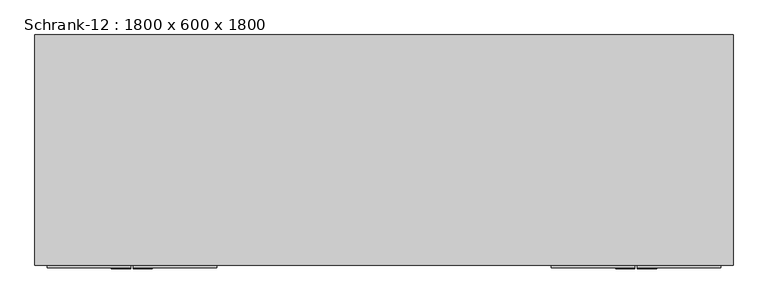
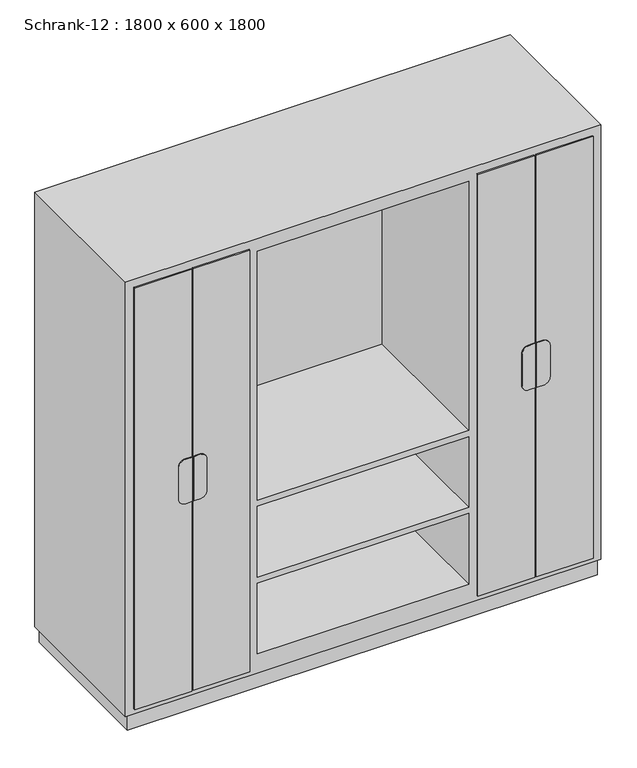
"""IFC4 building model written with IfcOpenShell, lengths in millimetres: furniture geometry, Schrank-12 : 1800 x 600 x 1800."""

from ifc_helpers import new_model, si_unit, point, frame, frame_2d, origin, origin_with_axes, place, context, project, spatial, polyline, circle_curve, trimmed, segment, composite_curve, outline, extrude, faceted_brep, source, transform, mapped, element, save


def schrank_12_1800_x_600_x_1800_5341ef42(model_context):
    return source(origin(), model_context, "Body", "SolidModel", [
        extrude(outline(composite_curve([segment(polyline([(1018.9, -622.5986452), (1018.9, -646.825), (841.1, -646.825), (841.1, -622.5986452)]), True, "CONTINUOUS"), segment(trimmed(circle_curve(frame_2d((866.5, -622.5986452)), 25.4), [point((841.1, -622.5986452))], [point((866.5, -597.1986452))], False, "CARTESIAN"), True, "CONTINUOUS"), segment(polyline([(866.5, -597.1986452), (993.5, -597.1986452)]), True, "CONTINUOUS"), segment(trimmed(circle_curve(frame_2d((993.5, -622.5986452)), 25.4), [point((993.5, -597.1986452))], [point((1018.9, -622.5986452))], False, "CARTESIAN"), True, "CONTINUOUS")], self_intersect=False)), frame((0.0, -709.575, 0.0), z_axis=(0.0, 1.0, 0.0), x_axis=(0.0, 0.0, 1.0)), (0.0, 0.0, 1.0), 3.175),
        extrude(outline(composite_curve([segment(trimmed(circle_curve(frame_2d((993.5, -677.78125)), 25.4), [point((1018.9, -677.78125))], [point((993.5, -703.18125))], False, "CARTESIAN"), True, "CONTINUOUS"), segment(polyline([(993.5, -703.18125), (866.5, -703.18125)]), True, "CONTINUOUS"), segment(trimmed(circle_curve(frame_2d((866.5, -677.78125)), 25.4), [point((866.5, -703.18125))], [point((841.1, -677.78125))], False, "CARTESIAN"), True, "CONTINUOUS"), segment(polyline([(841.1, -677.78125), (841.1, -653.175), (1018.9, -653.175), (1018.9, -677.78125)]), True, "CONTINUOUS")], self_intersect=False)), frame((0.0, -709.575, 0.0), z_axis=(0.0, 1.0, 0.0), x_axis=(0.0, 0.0, 1.0)), (0.0, 0.0, 1.0), 3.175),
        extrude(outline(composite_curve([segment(trimmed(circle_curve(frame_2d((993.5, 622.5986452)), 25.4), [point((1018.9, 622.5986452))], [point((993.5, 597.1986452))], False, "CARTESIAN"), True, "CONTINUOUS"), segment(polyline([(993.5, 597.1986452), (866.5, 597.1986452)]), True, "CONTINUOUS"), segment(trimmed(circle_curve(frame_2d((866.5, 622.5986452)), 25.4), [point((866.5, 597.1986452))], [point((841.1, 622.5986452))], False, "CARTESIAN"), True, "CONTINUOUS"), segment(polyline([(841.1, 622.5986452), (841.1, 646.825), (1018.9, 646.825), (1018.9, 622.5986452)]), True, "CONTINUOUS")], self_intersect=False)), frame((0.0, -709.575, 0.0), z_axis=(0.0, 1.0, 0.0), x_axis=(0.0, 0.0, 1.0)), (0.0, 0.0, 1.0), 3.175),
        extrude(outline(composite_curve([segment(polyline([(1018.9, 677.78125), (1018.9, 653.175), (841.1, 653.175), (841.1, 677.78125)]), True, "CONTINUOUS"), segment(trimmed(circle_curve(frame_2d((866.5, 677.78125)), 25.4), [point((841.1, 677.78125))], [point((866.5, 703.18125))], False, "CARTESIAN"), True, "CONTINUOUS"), segment(polyline([(866.5, 703.18125), (993.5, 703.18125)]), True, "CONTINUOUS"), segment(trimmed(circle_curve(frame_2d((993.5, 677.78125)), 25.4), [point((993.5, 703.18125))], [point((1018.9, 677.78125))], False, "CARTESIAN"), True, "CONTINUOUS")], self_intersect=False)), frame((0.0, -709.575, 0.0), z_axis=(0.0, 1.0, 0.0), x_axis=(0.0, 0.0, 1.0)), (0.0, 0.0, 1.0), 3.175),
        extrude(outline(polyline([(-868.25, -700.05), (-653.175, -700.05), (-653.175, -706.4), (-868.25, -706.4), (-868.25, -700.05)])), frame((0.0, 0.0, 80.0), z_axis=(0.0, 0.0, 1.0), x_axis=(1.0, 0.0, 0.0)), (0.0, 0.0, 1.0), 1688.25),
        extrude(outline(polyline([(-646.825, -700.05), (-431.75, -700.05), (-431.75, -706.4), (-646.825, -706.4), (-646.825, -700.05)])), frame((0.0, 0.0, 80.0), z_axis=(0.0, 0.0, 1.0), x_axis=(1.0, 0.0, 0.0)), (0.0, 0.0, 1.0), 1688.25),
        extrude(outline(polyline([(653.175, -700.05), (868.25, -700.05), (868.25, -706.4), (653.175, -706.4), (653.175, -700.05)])), frame((0.0, 0.0, 80.0), z_axis=(0.0, 0.0, 1.0), x_axis=(1.0, 0.0, 0.0)), (0.0, 0.0, 1.0), 1688.25),
        extrude(outline(polyline([(431.75, -700.05), (646.825, -700.05), (646.825, -706.4), (431.75, -706.4), (431.75, -700.05)])), frame((0.0, 0.0, 80.0), z_axis=(0.0, 0.0, 1.0), x_axis=(1.0, 0.0, 0.0)), (0.0, 0.0, 1.0), 1688.25),
        faceted_brep([(900.0, -700.05, 60.0), (900.0, -700.05, 1800.0), (-900.0, -700.05, 1800.0), (-900.0, -700.05, 60.0), (-450.8, -700.05, 1749.2), (-450.8, -700.05, 1377.7), (-849.2, -700.05, 1377.7), (-849.2, -700.05, 1749.2), (-450.8, -700.05, 136.0), (-849.2, -700.05, 136.0), (-849.2, -700.05, 482.3), (-450.8, -700.05, 482.3), (849.2, -700.05, 1377.7), (450.8, -700.05, 1377.7), (450.8, -700.05, 1749.2), (849.2, -700.05, 1749.2), (-400.0, -700.05, 752.2), (-400.0, -700.05, 1749.2), (400.0, -700.05, 1749.2), (400.0, -700.05, 752.2), (400.0, -700.05, 136.0), (-400.0, -700.05, 136.0), (-400.0, -700.05, 418.8), (400.0, -700.05, 418.8), (849.2, -700.05, 136.0), (450.8, -700.05, 136.0), (450.8, -700.05, 482.3), (849.2, -700.05, 482.3), (-849.2, -700.05, 507.7), (-849.2, -700.05, 917.3), (-450.8, -700.05, 917.3), (-450.8, -700.05, 507.7), (-450.8, -700.05, 1352.3), (-450.8, -700.05, 942.7), (-849.2, -700.05, 942.7), (-849.2, -700.05, 1352.3), (450.8, -700.05, 1352.3), (849.2, -700.05, 1352.3), (849.2, -700.05, 942.7), (450.8, -700.05, 942.7), (450.8, -700.05, 917.3), (849.2, -700.05, 917.3), (849.2, -700.05, 507.7), (450.8, -700.05, 507.7), (400.0, -700.05, 444.2), (-400.0, -700.05, 444.2), (-400.0, -700.05, 726.8), (400.0, -700.05, 726.8), (-900.0, -106.4, 60.0), (-900.0, -106.4, 1800.0), (900.0, -106.4, 1800.0), (900.0, -106.4, 60.0), (-450.8, -131.8, 1749.2), (-450.8, -131.8, 1377.7), (-849.2, -131.8, 1377.7), (-849.2, -131.8, 1749.2), (-450.8, -131.8, 136.0), (-849.2, -131.8, 136.0), (-849.2, -131.8, 482.3), (-450.8, -131.8, 482.3), (849.2, -131.8, 1377.7), (450.8, -131.8, 1377.7), (450.8, -131.8, 1749.2), (849.2, -131.8, 1749.2), (-400.0, -131.8, 752.2), (-400.0, -131.8, 1749.2), (400.0, -131.8, 1749.2), (400.0, -131.8, 752.2), (400.0, -131.8, 136.0), (-400.0, -131.8, 136.0), (-400.0, -131.8, 418.8), (400.0, -131.8, 418.8), (849.2, -131.8, 136.0), (450.8, -131.8, 136.0), (450.8, -131.8, 482.3), (849.2, -131.8, 482.3), (-849.2, -131.8, 507.7), (-849.2, -131.8, 917.3), (-450.8, -131.8, 917.3), (-450.8, -131.8, 507.7), (-450.8, -131.8, 1352.3), (-450.8, -131.8, 942.7), (-849.2, -131.8, 942.7), (-849.2, -131.8, 1352.3), (450.8, -131.8, 1352.3), (849.2, -131.8, 1352.3), (849.2, -131.8, 942.7), (450.8, -131.8, 942.7), (450.8, -131.8, 917.3), (849.2, -131.8, 917.3), (849.2, -131.8, 507.7), (450.8, -131.8, 507.7), (400.0, -131.8, 444.2), (-400.0, -131.8, 444.2), (-400.0, -131.8, 726.8), (400.0, -131.8, 726.8)], [[[0, 1, 2, 3], [4, 5, 6, 7], [8, 9, 10, 11], [12, 13, 14, 15], [16, 17, 18, 19], [20, 21, 22, 23], [24, 25, 26, 27], [28, 29, 30, 31], [32, 33, 34, 35], [36, 37, 38, 39], [40, 41, 42, 43], [44, 45, 46, 47]], [[48, 49, 50, 51]], [[1, 0, 51, 50]], [[2, 1, 50, 49]], [[3, 2, 49, 48]], [[0, 3, 48, 51]], [[5, 4, 52, 53]], [[6, 5, 53, 54]], [[7, 6, 54, 55]], [[4, 7, 55, 52]], [[9, 8, 56, 57]], [[10, 9, 57, 58]], [[11, 10, 58, 59]], [[8, 11, 59, 56]], [[13, 12, 60, 61]], [[14, 13, 61, 62]], [[15, 14, 62, 63]], [[12, 15, 63, 60]], [[17, 16, 64, 65]], [[18, 17, 65, 66]], [[19, 18, 66, 67]], [[16, 19, 67, 64]], [[21, 20, 68, 69]], [[22, 21, 69, 70]], [[23, 22, 70, 71]], [[20, 23, 71, 68]], [[25, 24, 72, 73]], [[26, 25, 73, 74]], [[27, 26, 74, 75]], [[24, 27, 75, 72]], [[29, 28, 76, 77]], [[30, 29, 77, 78]], [[31, 30, 78, 79]], [[28, 31, 79, 76]], [[33, 32, 80, 81]], [[34, 33, 81, 82]], [[35, 34, 82, 83]], [[32, 35, 83, 80]], [[37, 36, 84, 85]], [[38, 37, 85, 86]], [[39, 38, 86, 87]], [[36, 39, 87, 84]], [[41, 40, 88, 89]], [[42, 41, 89, 90]], [[43, 42, 90, 91]], [[40, 43, 91, 88]], [[45, 44, 92, 93]], [[46, 45, 93, 94]], [[47, 46, 94, 95]], [[44, 47, 95, 92]], [[53, 52, 55, 54]], [[57, 56, 59, 58]], [[61, 60, 63, 62]], [[65, 64, 67, 66]], [[69, 68, 71, 70]], [[73, 72, 75, 74]], [[77, 76, 79, 78]], [[81, 80, 83, 82]], [[85, 84, 87, 86]], [[89, 88, 91, 90]], [[93, 92, 95, 94]]]),
        extrude(outline(polyline([(890.0, -116.4), (890.0, -696.4), (-890.0, -696.4), (-890.0, -116.4), (890.0, -116.4)]), holes=[polyline([(860.0, -146.4), (-860.0, -146.4), (-860.0, -666.4), (860.0, -666.4), (860.0, -146.4)])]), origin_with_axes(), (0.0, 0.0, 1.0), 60.0),
    ])


if __name__ == "__main__":
    model = new_model("IFC4")
    model_context = context("Model", 3, world=origin())
    ifc_project = project(units=[si_unit("LENGTHUNIT", "METRE", prefix="MILLI")], contexts=[model_context])
    site = spatial("IfcSite", under=ifc_project)
    building = spatial("IfcBuilding", under=site)
    placement = place(None, origin())
    schrank_12_1800_x_600_x_1800_shape = schrank_12_1800_x_600_x_1800_5341ef42(model_context)
    element("IfcFurniture", 1, ObjectType="Schrank-12 : 1800 x 600 x 1800", at=placement, inside=building, context=model_context, shape_type="MappedRepresentation", body=[
        mapped(schrank_12_1800_x_600_x_1800_shape, transform((0.0, 0.0, 0.0), x_axis=(1.0, 0.0, 0.0), y_axis=(0.0, 1.0, 0.0), z_axis=(0.0, 0.0, 1.0))),
    ])
    save(model, "model.ifc")
